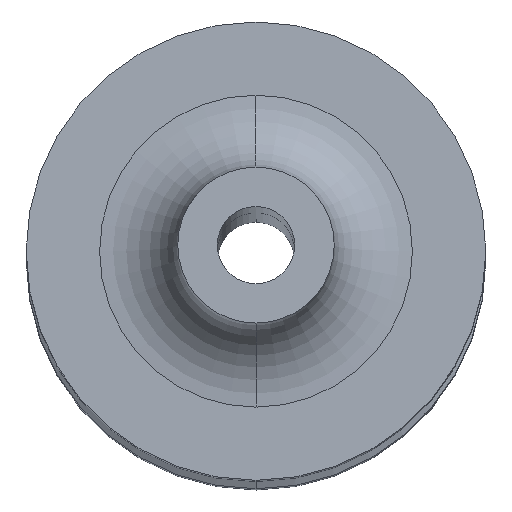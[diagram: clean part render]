
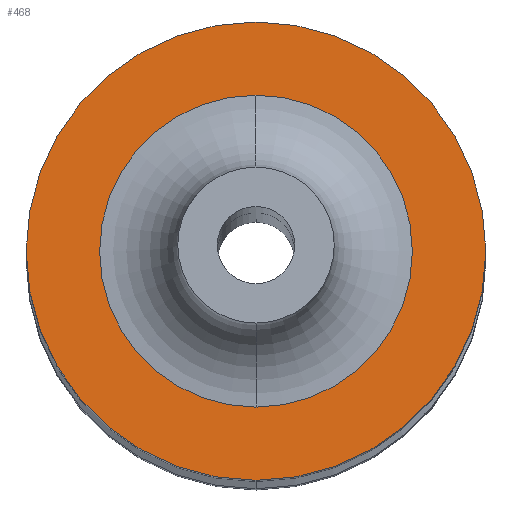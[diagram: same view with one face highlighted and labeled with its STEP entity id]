
A CAD part, left-side view. The second image highlights one B-rep face of the part: STEP entity #468.
In plain terms, the highlighted planar face has unit normal (-0.997, 0, 0.077).
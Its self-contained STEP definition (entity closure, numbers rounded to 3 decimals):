
#149=CARTESIAN_POINT('',(1282.41,0.,88.277));
#150=DIRECTION('',(-0.997,0.,0.077));
#151=DIRECTION('',(-0.077,0.,-0.997));
#152=AXIS2_PLACEMENT_3D('',#149,#150,#151);
#154=CARTESIAN_POINT('',(1282.41,0.,88.277));
#155=DIRECTION('',(0.997,0.,-0.077));
#156=DIRECTION('',(-0.077,0.,-0.997));
#157=AXIS2_PLACEMENT_3D('',#154,#155,#156);
#159=CARTESIAN_POINT('',(1282.41,0.,88.277));
#160=DIRECTION('',(0.997,0.,-0.077));
#161=DIRECTION('',(0.077,0.,0.997));
#162=AXIS2_PLACEMENT_3D('',#159,#160,#161);
#164=CARTESIAN_POINT('',(1282.41,0.,88.277));
#165=DIRECTION('',(0.997,0.,-0.077));
#166=DIRECTION('',(-0.077,0.,-0.997));
#167=AXIS2_PLACEMENT_3D('',#164,#165,#166);
#193=CARTESIAN_POINT('',(1281.274,0.,73.625));
#194=VERTEX_POINT('',#193);
#209=CARTESIAN_POINT('',(1283.546,0.,102.929));
#210=VERTEX_POINT('',#209);
#219=CARTESIAN_POINT('',(1283.183,0.,98.247));
#220=CARTESIAN_POINT('',(1281.637,0.,78.307));
#221=VERTEX_POINT('',#219);
#222=VERTEX_POINT('',#220);
#453=CARTESIAN_POINT('',(1282.41,0.,88.277));
#454=DIRECTION('',(-0.997,0.,0.077));
#455=DIRECTION('',(-0.077,0.,-0.997));
#456=AXIS2_PLACEMENT_3D('',#453,#454,#455);
#457=PLANE('',#456);
#458=ORIENTED_EDGE('',*,*,#446,.F.);
#459=ORIENTED_EDGE('',*,*,#435,.T.);
#460=EDGE_LOOP('',(#458,#459));
#461=FACE_OUTER_BOUND('',#460,.F.);
#463=ORIENTED_EDGE('',*,*,#462,.F.);
#465=ORIENTED_EDGE('',*,*,#464,.F.);
#466=EDGE_LOOP('',(#463,#465));
#467=FACE_BOUND('',#466,.F.);
#468=ADVANCED_FACE('',(#461,#467),#457,.T.);
#153=CIRCLE('',#152,14.696);
#158=CIRCLE('',#157,14.696);
#163=CIRCLE('',#162,10.);
#168=CIRCLE('',#167,10.);
#435=EDGE_CURVE('',#194,#210,#158,.T.);
#446=EDGE_CURVE('',#194,#210,#153,.T.);
#462=EDGE_CURVE('',#221,#222,#163,.T.);
#464=EDGE_CURVE('',#222,#221,#168,.T.);
